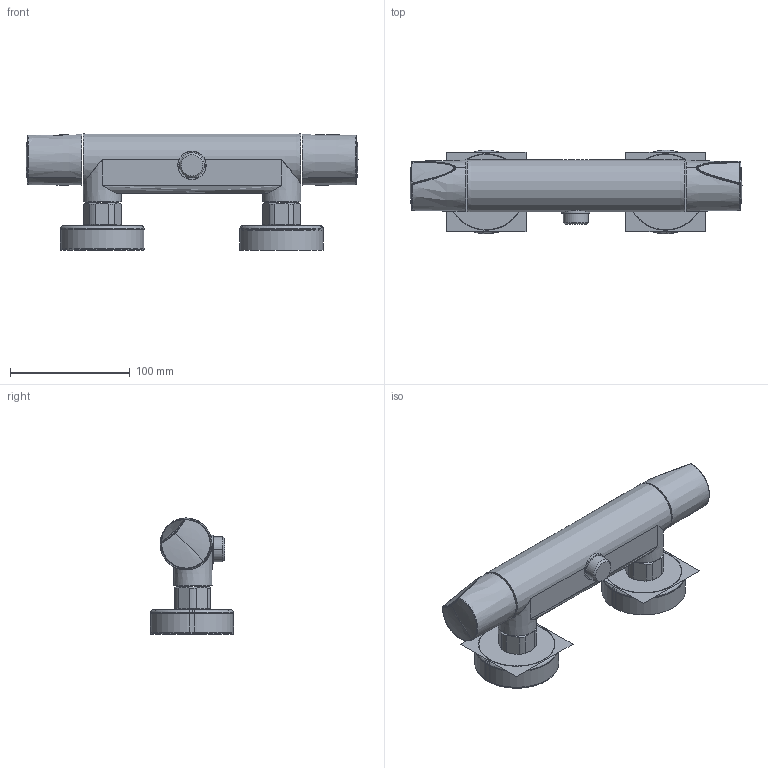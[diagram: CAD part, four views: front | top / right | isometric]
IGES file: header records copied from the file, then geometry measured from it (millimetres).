
Start section:  PTC IGES file: 60400_web.igs
Global section: file name: 60400_web.igs; native system: Creo Parametric by PTC Inc.; preprocessor: 2017380; author: jaj; organization: Unknown; date: 20180702.124016; units: millimetre
Bounding box: 277.55 x 70 x 97.11 mm (x, y, z)
Surface area: 107499.5 mm2 (no closed solid volume)
Topology: 0 solids, 0 shells, 140 faces, 903 edges, 994 vertices
Faces by surface type: revolution 69, bspline 63, extrusion 8
